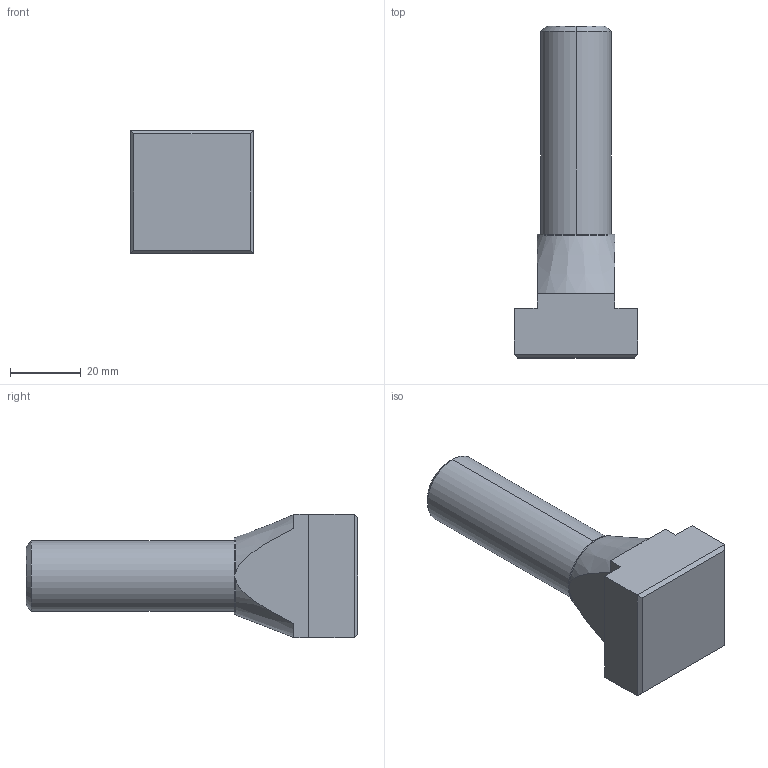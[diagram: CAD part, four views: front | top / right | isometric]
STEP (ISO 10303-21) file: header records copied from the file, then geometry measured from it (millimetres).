
FILE_DESCRIPTION (( 'STEP AP203' ), '1' );
FILE_NAME ('Wiberger-din787_22-m20x80.step', '2016-07-01T13:16:48', ( 'Magnus' ), ( 'Microsoft' ), 'SwSTEP 2.0', 'SolidWorks 2016', '' );
FILE_SCHEMA (( 'CONFIG_CONTROL_DESIGN' ));
Length unit declared in the file: millimetre
Products named in the file (1): Wiberger-din787_22-m20x80
Bounding box: 35 x 94 x 35 mm (x, y, z)
Volume: 48007.9 mm3; surface area: 9624.4 mm2
Topology: 1 solids, 1 shells, 27 faces, 66 edges, 42 vertices
Faces by surface type: plane 17, cone 5, cylinder 5
Entity records: 941 total; most frequent: CARTESIAN_POINT 228, ORIENTED_EDGE 132, DIRECTION 130, EDGE_CURVE 66, AXIS2_PLACEMENT_3D 44, VERTEX_POINT 42, VECTOR 42, LINE 42
